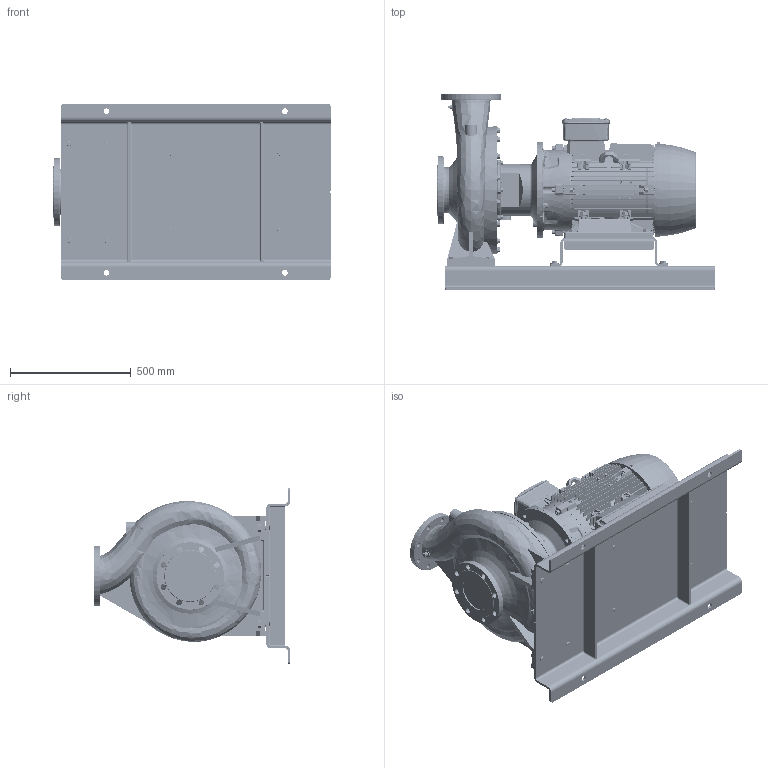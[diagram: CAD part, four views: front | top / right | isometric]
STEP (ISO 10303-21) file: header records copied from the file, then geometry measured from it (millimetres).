
FILE_DESCRIPTION (( 'STEP AP214' ), '1' );
FILE_NAME ('GSD4 125-400_30_(200ML)_W21_BP.STEP', '2026-05-08T03:36:49', ( '' ), ( '' ), 'SwSTEP 2.0', 'SolidWorks 2024', '' );
FILE_SCHEMA (( 'AUTOMOTIVE_DESIGN' ));
Length unit declared in the file: millimetre
Products named in the file (13): Parametric bolt and washer_SFT-A403B; Parametric bolt and washer_SFT-A359B; Parametric bolt_SFT-A403B; Parametric Flat Washer_M16; N9S4 GSDA-94C F1-1832971-00; Parametric Flat Washer_M20; 200M_L ALIE3_W21T_B35; 125-400-200M_L_ﾃﾞﾌｫﾙﾄ; Parametric bolt and washer_SFT-A351B; CGS11-5274; Parametric bolt_SFT-A351B; Parametric bolt_SFT-A359B; GSD4 125-400_30_(200ML)_W21_BP
Assembly tree (22 placements, depth 3):
  GSD4 125-400_30_(200ML)_W21_BP
    125-400-200M_L_ﾃﾞﾌｫﾙﾄ
    N9S4 GSDA-94C F1-1832971-00
    CGS11-5274
    Parametric bolt and washer_SFT-A403B  x4
      Parametric bolt_SFT-A403B
      Parametric Flat Washer_M20
    Parametric bolt and washer_SFT-A351B  x4
      Parametric bolt_SFT-A351B
      Parametric Flat Washer_M16
    Parametric bolt and washer_SFT-A359B  x4
      Parametric bolt_SFT-A359B
      Parametric Flat Washer_M16
    200M_L ALIE3_W21T_B35
Bounding box: 1150 x 815 x 730 mm (x, y, z)
Volume: 126274803.7 mm3; surface area: 7760669.4 mm2
Topology: 56 solids, 66 shells, 7945 faces, 20518 edges, 13200 vertices
Faces by surface type: plane 4479, cylinder 1522, bspline 1038, cone 688, torus 218
Entity records: 303588 total; most frequent: CARTESIAN_POINT 135013, ORIENTED_EDGE 37572, DIRECTION 30457, EDGE_CURVE 18786, VERTEX_POINT 12129, LINE 11429, VECTOR 11429, AXIS2_PLACEMENT_3D 9514
